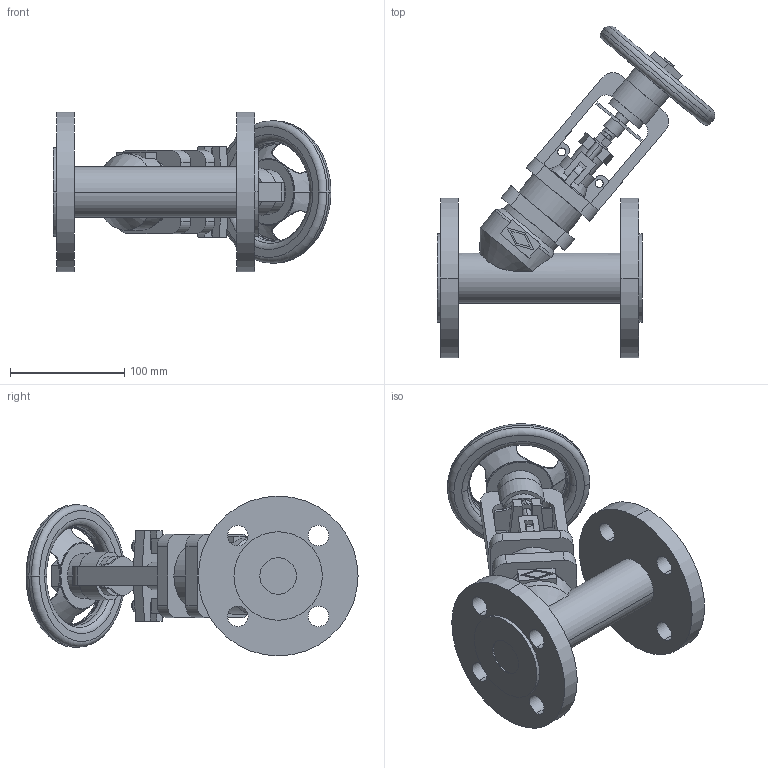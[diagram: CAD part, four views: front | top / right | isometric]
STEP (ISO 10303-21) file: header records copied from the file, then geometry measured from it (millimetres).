
FILE_DESCRIPTION(('OneSpaceDesigner STEP Export'),'2;1');
FILE_NAME('c000004393.stp','2010-05-07T 9:36:10',(''),(''),'OneSpace Designer STEP processor for AP214 (Solid Model)','OneSpace Modeling 15.50B 03-Nov-2007 (C) CoCreate Software GmbH','');
FILE_SCHEMA(('AUTOMOTIVE_DESIGN { 1 0 10303 214 1 1 1 1 }'));
Length unit declared in the file: millimetre
Products named in the file (1): 1
Bounding box: 243.66 x 291.01 x 140 mm (x, y, z)
Volume: 1251259.4 mm3; surface area: 194240.2 mm2
Topology: 1 solids, 1 shells, 294 faces, 782 edges, 513 vertices
Faces by surface type: plane 140, cylinder 113, torus 27, cone 14
Entity records: 11487 total; most frequent: CARTESIAN_POINT 2197, ORIENTED_EDGE 1556, DIRECTION 1290, EDGE_CURVE 778, VERTEX_POINT 509, AXIS2_PLACEMENT_3D 436, VECTOR 418, LINE 418
